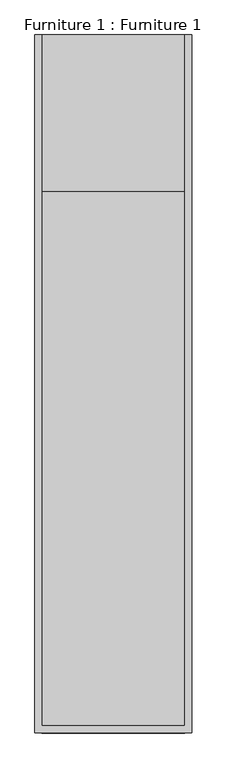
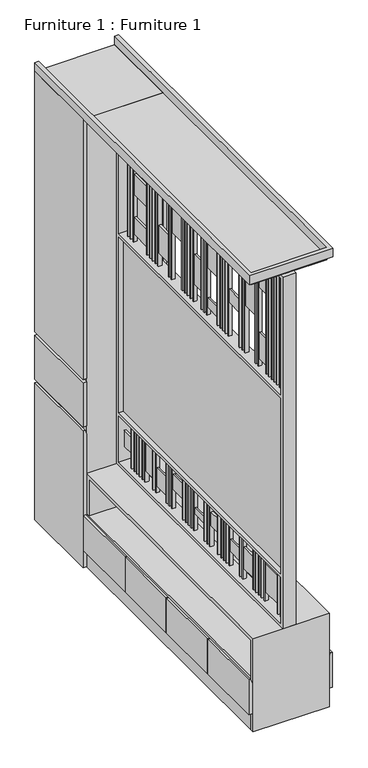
"""IFC4 building model written with IfcOpenShell, lengths in millimetres: furniture geometry, Furniture 1 : Furniture 1."""

import ifcopenshell
import ifcopenshell.guid

model = None  # the IFC model being written
_history = None  # IfcOwnerHistory: only IFC2X3 demands one
_inside = {}  # id of a spatial element -> (the spatial element, [elements in it])
_under = {}  # id of a project, library or spatial element -> (it, [spatial elements below it])
_declared = {}  # id of a project -> (the project, [libraries it declares])
_typed = {}  # id of a type object -> (the type object, [elements of that type])
_made_of = {}  # id of a material, layer set ... -> (it, [elements and type objects made of it])


def new_model(schema):
    """Start an empty IFC model of exactly this schema.

    Asked for "IFC4X3", IfcOpenShell would pick the latest addendum, in which some entities
    have other attributes; the version numbers below select the first issue.
    IFC2X3 requires an IfcOwnerHistory on every rooted entity: one is made here for all.
    """
    global model, _history
    if schema == "IFC4X3":
        model = ifcopenshell.file(schema_version=(4, 3, 0, 0))
    else:
        model = ifcopenshell.file(schema=schema)
    _inside.clear()
    _under.clear()
    _declared.clear()
    _typed.clear()
    _made_of.clear()
    _history = None
    if model.schema == "IFC2X3":
        org = make("IfcOrganization", Name="unknown")
        user = make(
            "IfcPersonAndOrganization",
            ThePerson=make("IfcPerson", FamilyName="unknown"),
            TheOrganization=org,
        )
        app = make(
            "IfcApplication",
            ApplicationDeveloper=org,
            Version="unknown",
            ApplicationFullName="unknown",
            ApplicationIdentifier="unknown",
        )
        _history = make(
            "IfcOwnerHistory",
            OwningUser=user,
            OwningApplication=app,
            ChangeAction="ADDED",
            CreationDate=0,
        )
    return model


def make(cls, **values):
    """One entity of the class cls with the attributes given. An attribute that is None is left unset."""
    return model.create_entity(
        cls, **{name: value for name, value in values.items() if value is not None}
    )


def rooted(cls, **values):
    """An entity with a GlobalId (a new one), such as an element, a storey or a relation."""
    return make(cls, GlobalId=ifcopenshell.guid.new(), OwnerHistory=_history, **values)


def si_unit(unit_type, name, prefix=None):
    """IfcSIUnit, for example si_unit("LENGTHUNIT", "METRE", prefix="MILLI")."""
    return make("IfcSIUnit", UnitType=unit_type, Prefix=prefix, Name=name)


def assignment(units):
    """IfcUnitAssignment: the units of a project."""
    return None if units is None else make("IfcUnitAssignment", Units=units)


def point(xyz):
    """IfcCartesianPoint."""
    return None if xyz is None else make("IfcCartesianPoint", Coordinates=xyz)


def direction(xyz):
    """IfcDirection."""
    return None if xyz is None else make("IfcDirection", DirectionRatios=xyz)


def frame(location, z_axis=None, x_axis=None):
    """IfcAxis2Placement3D, a coordinate frame: its origin and axes. An axis left out is left unset."""
    return make(
        "IfcAxis2Placement3D",
        Location=point(location),
        Axis=direction(z_axis),
        RefDirection=direction(x_axis),
    )


def origin():
    """The frame at (0, 0, 0) with its axes left unset."""
    return frame((0.0, 0.0, 0.0))


def origin_with_axes():
    """The frame at (0, 0, 0) with the z axis (0, 0, 1) and the x axis (1, 0, 0) written out."""
    return frame((0.0, 0.0, 0.0), z_axis=(0.0, 0.0, 1.0), x_axis=(1.0, 0.0, 0.0))


def place(relative_to, where):
    """IfcLocalPlacement: puts the frame where relative to a parent placement (None: the world)."""
    return make(
        "IfcLocalPlacement", PlacementRelTo=relative_to, RelativePlacement=where
    )


def context(
    kind, dimensions, precision=None, world=None, true_north=None, identifier=None
):
    """IfcGeometricRepresentationContext, for example the 3D "Model" context."""
    return make(
        "IfcGeometricRepresentationContext",
        ContextIdentifier=identifier,
        ContextType=kind,
        CoordinateSpaceDimension=dimensions,
        Precision=precision,
        WorldCoordinateSystem=world,
        TrueNorth=true_north,
    )


def project(units=None, contexts=None):
    """IfcProject with its units and contexts."""
    return rooted(
        "IfcProject",
        Name="project",
        RepresentationContexts=contexts,
        UnitsInContext=assignment(units),
    )


def spatial(cls, under=None, at=None, **own):
    """A site, building, storey or space (cls), placed at a placement, below another one or the project."""
    s = rooted(cls, ObjectPlacement=at, **own)
    if under is not None:
        _under.setdefault(under.id(), (under, []))[1].append(s)
    return s


def polyline(points):
    """IfcPolyline through the points."""
    return make("IfcPolyline", Points=[point(p) for p in points])


def outline(outer, holes=None, kind="AREA"):
    """IfcArbitraryClosedProfileDef: a profile drawn as a closed curve; with holes, ...WithVoids."""
    if holes is None:
        return make("IfcArbitraryClosedProfileDef", ProfileType=kind, OuterCurve=outer)
    return make(
        "IfcArbitraryProfileDefWithVoids",
        ProfileType=kind,
        OuterCurve=outer,
        InnerCurves=holes,
    )


def extrude(swept, where, along, depth):
    """IfcExtrudedAreaSolid: the profile swept, set in the frame where, extruded along a direction by depth."""
    return make(
        "IfcExtrudedAreaSolid",
        SweptArea=swept,
        Position=where,
        ExtrudedDirection=direction(along),
        Depth=depth,
    )


def shape(context_of_items, identifier, shape_type, items):
    """IfcShapeRepresentation: the items that make up one representation, for example the "Body"."""
    return make(
        "IfcShapeRepresentation",
        ContextOfItems=context_of_items,
        RepresentationIdentifier=identifier,
        RepresentationType=shape_type,
        Items=items,
    )


def source(mapping_origin, context_of_items, identifier, shape_type, items):
    """IfcRepresentationMap: a shape defined once, which mapped items show again and again."""
    return make(
        "IfcRepresentationMap",
        MappingOrigin=mapping_origin,
        MappedRepresentation=shape(context_of_items, identifier, shape_type, items),
    )


def transform(
    local_origin,
    x_axis=None,
    y_axis=None,
    z_axis=None,
    scale=None,
    scale2=None,
    scale3=None,
    uniform=True,
):
    """IfcCartesianTransformationOperator3D, or its non-uniform kind. x_axis, y_axis, z_axis: its Axis1, 2, 3."""
    if uniform:
        return make(
            "IfcCartesianTransformationOperator3D",
            Axis1=direction(x_axis),
            Axis2=direction(y_axis),
            LocalOrigin=point(local_origin),
            Scale=scale,
            Axis3=direction(z_axis),
        )
    return make(
        "IfcCartesianTransformationOperator3DnonUniform",
        Axis1=direction(x_axis),
        Axis2=direction(y_axis),
        LocalOrigin=point(local_origin),
        Scale=scale,
        Axis3=direction(z_axis),
        Scale2=scale2,
        Scale3=scale3,
    )


def mapped(mapping_source, mapping_target):
    """IfcMappedItem: shows the shape of a source again, moved by a transform."""
    return make(
        "IfcMappedItem", MappingSource=mapping_source, MappingTarget=mapping_target
    )


def made_of(thing, what):
    """Note that an element or type object is made of a material, layer set ...; save() writes the relation."""
    if what is not None:
        _made_of.setdefault(what.id(), (what, []))[1].append(thing)
    return thing


def element(
    cls,
    number,
    at=None,
    inside=None,
    cuts=None,
    type_object=None,
    material=None,
    context=None,
    identifier="Body",
    shape_type=None,
    held_by="IfcProductDefinitionShape",
    body=None,
    shapes=None,
    **own,
):
    """One element of the class cls, such as IfcWall. Its Tag is "e" and its number.

    at: its placement. inside: the storey or other place that contains it. cuts: it is an
    opening in that element (IfcRelVoidsElement). A single representation is given by context,
    identifier, shape_type and body (its items); several are given by shapes. held_by: the class
    of the entity that holds the representations. save() writes the other relations.
    """
    e = rooted(cls, Tag="e%d" % number, ObjectPlacement=at, **own)
    if body is not None:
        shapes = [shape(context, identifier, shape_type, body)]
    if shapes is not None:
        e.Representation = make(held_by, Representations=shapes)
    if inside is not None:
        _inside.setdefault(inside.id(), (inside, []))[1].append(e)
    if cuts is not None:
        rooted(
            "IfcRelVoidsElement", RelatingBuildingElement=cuts, RelatedOpeningElement=e
        )
    if type_object is not None:
        _typed.setdefault(type_object.id(), (type_object, []))[1].append(e)
    return made_of(e, material)


def aggregate(whole, parts):
    """IfcRelAggregates: a whole, such as a stair, and the parts it consists of."""
    return rooted("IfcRelAggregates", RelatingObject=whole, RelatedObjects=parts)


def save(model, path):
    """Write the relations noted so far, then the file.

    IfcRelAggregates (storeys below a building ...), IfcRelContainedInSpatialStructure (elements
    in a storey), IfcRelDefinesByType, IfcRelAssociatesMaterial and IfcRelDeclares: one each for
    every whole, place, type object, material and project.
    """
    for whole, parts in _under.values():
        aggregate(whole, parts)
    for where, things in _inside.values():
        rooted(
            "IfcRelContainedInSpatialStructure",
            RelatedElements=things,
            RelatingStructure=where,
        )
    for kind, things in _typed.values():
        rooted("IfcRelDefinesByType", RelatedObjects=things, RelatingType=kind)
    for what, things in _made_of.values():
        rooted("IfcRelAssociatesMaterial", RelatedObjects=things, RelatingMaterial=what)
    for by, libraries in _declared.values():
        rooted("IfcRelDeclares", RelatingContext=by, RelatedDefinitions=libraries)
    model.write(path)


def furniture_1_furniture_1_9f08c0cb(model_context):
    return source(origin(), model_context, "Body", "SweptSolid", [
        extrude(outline(polyline([(-1392.1161882, 118.9239272), (-1392.1161882, 568.9239272), (-1372.1161882, 568.9239272), (-1372.1161882, 118.9239272), (-1392.1161882, 118.9239272)])), frame((0.0, 0.0, 800.0), z_axis=(0.0, 0.0, 1.0), x_axis=(1.0, 0.0, 0.0)), (0.0, 0.0, 1.0), 250.0),
        extrude(outline(polyline([(-1392.1161882, 118.9239272), (-1392.1161882, 568.9239272), (-1372.1161882, 568.9239272), (-1372.1161882, 118.9239272), (-1392.1161882, 118.9239272)])), frame((0.0, 0.0, 1070.0), z_axis=(0.0, 0.0, 1.0), x_axis=(1.0, 0.0, 0.0)), (0.0, 0.0, 1.0), 1480.0),
        extrude(outline(polyline([(752.5252258, -1372.1161882), (780.0, -1382.1161882), (780.0, -1392.1161882), (0.0, -1392.1161882), (0.0, -1372.1161882), (752.5252258, -1372.1161882)])), frame((0.0, 118.9239272, 0.0), z_axis=(0.0, 1.0, 0.0), x_axis=(0.0, 0.0, 1.0)), (0.0, 0.0, 1.0), 450.0),
        extrude(outline(polyline([(-942.1161882, 568.9239272), (-942.1161882, 118.9239272), (-962.1161882, 118.9239272), (-962.1161882, 568.9239272), (-942.1161882, 568.9239272)])), frame((0.0, 0.0, 800.0), z_axis=(0.0, 0.0, 1.0), x_axis=(1.0, 0.0, 0.0)), (0.0, 0.0, 1.0), 250.0),
        extrude(outline(polyline([(-942.1161882, 568.9239272), (-942.1161882, 118.9239272), (-962.1161882, 118.9239272), (-962.1161882, 568.9239272), (-942.1161882, 568.9239272)])), frame((0.0, 0.0, 1070.0), z_axis=(0.0, 0.0, 1.0), x_axis=(1.0, 0.0, 0.0)), (0.0, 0.0, 1.0), 1480.0),
        extrude(outline(polyline([(272.5252258, -1372.1161882), (300.0, -1382.1161882), (300.0, -1392.1161882), (100.0, -1392.1161882), (100.0, -1372.1161882), (272.5252258, -1372.1161882)])), frame((0.0, -271.0760728, 0.0), z_axis=(0.0, 1.0, 0.0), x_axis=(0.0, 0.0, 1.0)), (0.0, 0.0, 1.0), 385.0),
        extrude(outline(polyline([(272.5252258, -1372.1161882), (300.0, -1382.1161882), (300.0, -1392.1161882), (100.0, -1392.1161882), (100.0, -1372.1161882), (272.5252258, -1372.1161882)])), frame((0.0, -656.0760728, 0.0), z_axis=(0.0, 1.0, 0.0), x_axis=(0.0, 0.0, 1.0)), (0.0, 0.0, 1.0), 380.0),
        extrude(outline(polyline([(272.5252258, -1372.1161882), (300.0, -1382.1161882), (300.0, -1392.1161882), (100.0, -1392.1161882), (100.0, -1372.1161882), (272.5252258, -1372.1161882)])), frame((0.0, -1041.0760728, 0.0), z_axis=(0.0, 1.0, 0.0), x_axis=(0.0, 0.0, 1.0)), (0.0, 0.0, 1.0), 380.0),
        extrude(outline(polyline([(272.5252258, -1372.1161882), (300.0, -1382.1161882), (300.0, -1392.1161882), (100.0, -1392.1161882), (100.0, -1372.1161882), (272.5252258, -1372.1161882)])), frame((0.0, -1426.0760728, 0.0), z_axis=(0.0, 1.0, 0.0), x_axis=(0.0, 0.0, 1.0)), (0.0, 0.0, 1.0), 380.0),
        extrude(outline(polyline([(752.5252258, -962.1161882), (0.0, -962.1161882), (0.0, -942.1161882), (780.0, -942.1161882), (780.0, -952.1161882), (752.5252258, -962.1161882)])), frame((0.0, 118.9239272, 0.0), z_axis=(0.0, 1.0, 0.0), x_axis=(0.0, 0.0, 1.0)), (0.0, 0.0, 1.0), 450.0),
        extrude(outline(polyline([(272.5252258, -962.1161882), (100.0, -962.1161882), (100.0, -942.1161882), (300.0, -942.1161882), (300.0, -952.1161882), (272.5252258, -962.1161882)])), frame((0.0, -271.0760728, 0.0), z_axis=(0.0, 1.0, 0.0), x_axis=(0.0, 0.0, 1.0)), (0.0, 0.0, 1.0), 385.0),
        extrude(outline(polyline([(272.5252258, -962.1161882), (100.0, -962.1161882), (100.0, -942.1161882), (300.0, -942.1161882), (300.0, -952.1161882), (272.5252258, -962.1161882)])), frame((0.0, -656.0760728, 0.0), z_axis=(0.0, 1.0, 0.0), x_axis=(0.0, 0.0, 1.0)), (0.0, 0.0, 1.0), 380.0),
        extrude(outline(polyline([(272.5252258, -962.1161882), (100.0, -962.1161882), (100.0, -942.1161882), (300.0, -942.1161882), (300.0, -952.1161882), (272.5252258, -962.1161882)])), frame((0.0, -1041.0760728, 0.0), z_axis=(0.0, 1.0, 0.0), x_axis=(0.0, 0.0, 1.0)), (0.0, 0.0, 1.0), 380.0),
        extrude(outline(polyline([(272.5252258, -962.1161882), (100.0, -962.1161882), (100.0, -942.1161882), (300.0, -942.1161882), (300.0, -952.1161882), (272.5252258, -962.1161882)])), frame((0.0, -1426.0760728, 0.0), z_axis=(0.0, 1.0, 0.0), x_axis=(0.0, 0.0, 1.0)), (0.0, 0.0, 1.0), 380.0),
        extrude(outline(polyline([(-1167.1161882, 98.9239272), (-1167.1161882, -1411.0760728), (-1187.1161882, -1411.0760728), (-1187.1161882, 98.9239272), (-1167.1161882, 98.9239272)])), frame((0.0, 0.0, 830.0), z_axis=(0.0, 0.0, 1.0), x_axis=(1.0, 0.0, 0.0)), (0.0, 0.0, 1.0), 1000.0),
        extrude(outline(polyline([(-1172.1161882, -1161.0760728), (-1172.1161882, -1231.0760728), (-1182.1161882, -1231.0760728), (-1182.1161882, -1161.0760728), (-1172.1161882, -1161.0760728)])), frame((0.0, 0.0, 1892.03626), z_axis=(0.0, 0.0, 1.0), x_axis=(1.0, 0.0, 0.0)), (0.0, 0.0, 1.0), 150.0731676),
        extrude(outline(polyline([(-1172.1161882, -1161.0760728), (-1172.1161882, -1231.0760728), (-1182.1161882, -1231.0760728), (-1182.1161882, -1161.0760728), (-1172.1161882, -1161.0760728)])), frame((0.0, 0.0, 2298.9247777), z_axis=(0.0, 0.0, 1.0), x_axis=(1.0, 0.0, 0.0)), (0.0, 0.0, 1.0), 85.6051167),
        extrude(outline(polyline([(-1172.1161882, -1036.0760728), (-1172.1161882, -1131.0760728), (-1182.1161882, -1131.0760728), (-1182.1161882, -1036.0760728), (-1172.1161882, -1036.0760728)])), frame((0.0, 0.0, 2118.2028647), z_axis=(0.0, 0.0, 1.0), x_axis=(1.0, 0.0, 0.0)), (0.0, 0.0, 1.0), 169.0965269),
        extrude(outline(polyline([(-1172.1161882, -1036.0760728), (-1172.1161882, -1131.0760728), (-1182.1161882, -1131.0760728), (-1182.1161882, -1036.0760728), (-1172.1161882, -1036.0760728)])), frame((0.0, 0.0, 2396.4138599), z_axis=(0.0, 0.0, 1.0), x_axis=(1.0, 0.0, 0.0)), (0.0, 0.0, 1.0), 82.2069478),
        extrude(outline(polyline([(-1172.1161882, -876.0760728), (-1172.1161882, -981.0760728), (-1182.1161882, -981.0760728), (-1182.1161882, -876.0760728), (-1172.1161882, -876.0760728)])), frame((0.0, 0.0, 2042.1094276), z_axis=(0.0, 0.0, 1.0), x_axis=(1.0, 0.0, 0.0)), (0.0, 0.0, 1.0), 76.0934371),
        extrude(outline(polyline([(-1172.1161882, -881.0760728), (-1172.1161882, -981.0760728), (-1182.1161882, -981.0760728), (-1182.1161882, -881.0760728), (-1172.1161882, -881.0760728)])), frame((0.0, 0.0, 2287.2993915), z_axis=(0.0, 0.0, 1.0), x_axis=(1.0, 0.0, 0.0)), (0.0, 0.0, 1.0), 132.1066616),
        extrude(outline(polyline([(-1172.1161882, -681.0760728), (-1172.1161882, -776.0760728), (-1182.1161882, -776.0760728), (-1182.1161882, -681.0760728), (-1172.1161882, -681.0760728)])), frame((0.0, 0.0, 2118.2028647), z_axis=(0.0, 0.0, 1.0), x_axis=(1.0, 0.0, 0.0)), (0.0, 0.0, 1.0), 180.7219131),
        extrude(outline(polyline([(-1172.1161882, -681.0760728), (-1172.1161882, -776.0760728), (-1182.1161882, -776.0760728), (-1182.1161882, -681.0760728), (-1172.1161882, -681.0760728)])), frame((0.0, 0.0, 1892.03626), z_axis=(0.0, 0.0, 1.0), x_axis=(1.0, 0.0, 0.0)), (0.0, 0.0, 1.0), 55.6697472),
        extrude(outline(polyline([(-1172.1161882, -556.0760728), (-1172.1161882, -626.0760728), (-1182.1161882, -626.0760728), (-1182.1161882, -556.0760728), (-1172.1161882, -556.0760728)])), frame((0.0, 0.0, 1947.7060072), z_axis=(0.0, 0.0, 1.0), x_axis=(1.0, 0.0, 0.0)), (0.0, 0.0, 1.0), 170.4968575),
        extrude(outline(polyline([(-1172.1161882, -556.0760728), (-1172.1161882, -626.0760728), (-1182.1161882, -626.0760728), (-1182.1161882, -556.0760728), (-1172.1161882, -556.0760728)])), frame((0.0, 0.0, 2298.9247777), z_axis=(0.0, 0.0, 1.0), x_axis=(1.0, 0.0, 0.0)), (0.0, 0.0, 1.0), 120.4812754),
        extrude(outline(polyline([(-1172.1161882, -351.0760728), (-1172.1161882, -446.0760728), (-1182.1161882, -446.0760728), (-1182.1161882, -351.0760728), (-1172.1161882, -351.0760728)])), frame((0.0, 0.0, 2118.2028647), z_axis=(0.0, 0.0, 1.0), x_axis=(1.0, 0.0, 0.0)), (0.0, 0.0, 1.0), 169.0965269),
        extrude(outline(polyline([(-1172.1161882, -226.0760728), (-1172.1161882, -321.0760728), (-1182.1161882, -321.0760728), (-1182.1161882, -226.0760728), (-1172.1161882, -226.0760728)])), frame((0.0, 0.0, 1925.3429915), z_axis=(0.0, 0.0, 1.0), x_axis=(1.0, 0.0, 0.0)), (0.0, 0.0, 1.0), 159.3364867),
        extrude(outline(polyline([(-1172.1161882, -226.0760728), (-1172.1161882, -321.0760728), (-1182.1161882, -321.0760728), (-1182.1161882, -226.0760728), (-1172.1161882, -226.0760728)])), frame((0.0, 0.0, 2298.9247777), z_axis=(0.0, 0.0, 1.0), x_axis=(1.0, 0.0, 0.0)), (0.0, 0.0, 1.0), 139.3698859),
        extrude(outline(polyline([(-1172.1161882, 3.9239272), (-1172.1161882, -116.0760728), (-1182.1161882, -116.0760728), (-1182.1161882, 3.9239272), (-1172.1161882, 3.9239272)])), frame((0.0, 0.0, 1892.03626), z_axis=(0.0, 0.0, 1.0), x_axis=(1.0, 0.0, 0.0)), (0.0, 0.0, 1.0), 98.9980901),
        extrude(outline(polyline([(-1172.1161882, 3.9239272), (-1172.1161882, -116.0760728), (-1182.1161882, -116.0760728), (-1182.1161882, 3.9239272), (-1172.1161882, 3.9239272)])), frame((0.0, 0.0, 2118.2028647), z_axis=(0.0, 0.0, 1.0), x_axis=(1.0, 0.0, 0.0)), (0.0, 0.0, 1.0), 117.4269694),
        extrude(outline(polyline([(-1172.1161882, 3.9239272), (-1172.1161882, -116.0760728), (-1182.1161882, -116.0760728), (-1182.1161882, 3.9239272), (-1172.1161882, 3.9239272)])), frame((0.0, 0.0, 2384.5298945), z_axis=(0.0, 0.0, 1.0), x_axis=(1.0, 0.0, 0.0)), (0.0, 0.0, 1.0), 94.2977351),
        extrude(outline(polyline([(-1172.1161882, 98.9239272), (-1172.1161882, 25.063286), (-1182.1161882, 25.063286), (-1182.1161882, 98.9239272), (-1172.1161882, 98.9239272)])), frame((0.0, 0.0, 631.2583924), z_axis=(0.0, 0.0, 1.0), x_axis=(1.0, 0.0, 0.0)), (0.0, 0.0, 1.0), 90.3020205),
        extrude(outline(polyline([(-1172.1161882, -104.936714), (-1172.1161882, -174.936714), (-1182.1161882, -174.936714), (-1182.1161882, -104.936714), (-1172.1161882, -104.936714)])), frame((0.0, 0.0, 611.2800693), z_axis=(0.0, 0.0, 1.0), x_axis=(1.0, 0.0, 0.0)), (0.0, 0.0, 1.0), 167.0187813),
        extrude(outline(polyline([(-1172.1161882, -204.936714), (-1172.1161882, -299.936714), (-1182.1161882, -299.936714), (-1182.1161882, -204.936714), (-1172.1161882, -204.936714)])), frame((0.0, 0.0, 586.5069487), z_axis=(0.0, 0.0, 1.0), x_axis=(1.0, 0.0, 0.0)), (0.0, 0.0, 1.0), 105.4855461),
        extrude(outline(polyline([(-1172.1161882, -354.936714), (-1172.1161882, -454.936714), (-1182.1161882, -454.936714), (-1182.1161882, -354.936714), (-1172.1161882, -354.936714)])), frame((0.0, 0.0, 660.8263107), z_axis=(0.0, 0.0, 1.0), x_axis=(1.0, 0.0, 0.0)), (0.0, 0.0, 1.0), 85.5072229),
        extrude(outline(polyline([(-1172.1161882, -559.936714), (-1172.1161882, -654.936714), (-1182.1161882, -654.936714), (-1182.1161882, -559.936714), (-1172.1161882, -559.936714)])), frame((0.0, 0.0, 644.8436522), z_axis=(0.0, 0.0, 1.0), x_axis=(1.0, 0.0, 0.0)), (0.0, 0.0, 1.0), 35.1563478),
        extrude(outline(polyline([(-1172.1161882, -709.936714), (-1172.1161882, -779.936714), (-1182.1161882, -779.936714), (-1182.1161882, -709.936714), (-1172.1161882, -709.936714)])), frame((0.0, 0.0, 668.018507), z_axis=(0.0, 0.0, 1.0), x_axis=(1.0, 0.0, 0.0)), (0.0, 0.0, 1.0), 78.3150266),
        extrude(outline(polyline([(-1172.1161882, -889.936714), (-1172.1161882, -984.936714), (-1182.1161882, -984.936714), (-1182.1161882, -889.936714), (-1172.1161882, -889.936714)])), frame((0.0, 0.0, 631.2583924), z_axis=(0.0, 0.0, 1.0), x_axis=(1.0, 0.0, 0.0)), (0.0, 0.0, 1.0), 68.7254315),
        extrude(outline(polyline([(-1172.1161882, -1014.936714), (-1172.1161882, -1109.936714), (-1182.1161882, -1109.936714), (-1182.1161882, -1014.936714), (-1172.1161882, -1014.936714)])), frame((0.0, 0.0, 611.2800693), z_axis=(0.0, 0.0, 1.0), x_axis=(1.0, 0.0, 0.0)), (0.0, 0.0, 1.0), 121.4682046),
        extrude(outline(polyline([(-1172.1161882, -1219.936714), (-1172.1161882, -1339.936714), (-1182.1161882, -1339.936714), (-1182.1161882, -1219.936714), (-1172.1161882, -1219.936714)])), frame((0.0, 0.0, 603.4025206), z_axis=(0.0, 0.0, 1.0), x_axis=(1.0, 0.0, 0.0)), (0.0, 0.0, 1.0), 160.1287146),
        extrude(outline(polyline([(-1167.1161882, 25.063286), (-1167.1161882, 20.063286), (-1187.1161882, 20.063286), (-1187.1161882, 25.063286), (-1167.1161882, 25.063286)])), frame((0.0, 0.0, 550.0), z_axis=(0.0, 0.0, 1.0), x_axis=(1.0, 0.0, 0.0)), (0.0, 0.0, 1.0), 260.0),
        extrude(outline(polyline([(-1167.1161882, 0.063286), (-1167.1161882, -4.936714), (-1187.1161882, -4.936714), (-1187.1161882, 0.063286), (-1167.1161882, 0.063286)])), frame((0.0, 0.0, 550.0), z_axis=(0.0, 0.0, 1.0), x_axis=(1.0, 0.0, 0.0)), (0.0, 0.0, 1.0), 260.0),
        extrude(outline(polyline([(-1167.1161882, -24.936714), (-1167.1161882, -29.936714), (-1187.1161882, -29.936714), (-1187.1161882, -24.936714), (-1167.1161882, -24.936714)])), frame((0.0, 0.0, 550.0), z_axis=(0.0, 0.0, 1.0), x_axis=(1.0, 0.0, 0.0)), (0.0, 0.0, 1.0), 260.0),
        extrude(outline(polyline([(-1167.1161882, -49.936714), (-1167.1161882, -54.936714), (-1187.1161882, -54.936714), (-1187.1161882, -49.936714), (-1167.1161882, -49.936714)])), frame((0.0, 0.0, 550.0), z_axis=(0.0, 0.0, 1.0), x_axis=(1.0, 0.0, 0.0)), (0.0, 0.0, 1.0), 260.0),
        extrude(outline(polyline([(-1167.1161882, -74.936714), (-1167.1161882, -79.936714), (-1187.1161882, -79.936714), (-1187.1161882, -74.936714), (-1167.1161882, -74.936714)])), frame((0.0, 0.0, 550.0), z_axis=(0.0, 0.0, 1.0), x_axis=(1.0, 0.0, 0.0)), (0.0, 0.0, 1.0), 260.0),
        extrude(outline(polyline([(-1167.1161882, -99.936714), (-1167.1161882, -104.936714), (-1187.1161882, -104.936714), (-1187.1161882, -99.936714), (-1167.1161882, -99.936714)])), frame((0.0, 0.0, 550.0), z_axis=(0.0, 0.0, 1.0), x_axis=(1.0, 0.0, 0.0)), (0.0, 0.0, 1.0), 260.0),
        extrude(outline(polyline([(-1167.1161882, -174.936714), (-1167.1161882, -179.936714), (-1187.1161882, -179.936714), (-1187.1161882, -174.936714), (-1167.1161882, -174.936714)])), frame((0.0, 0.0, 550.0), z_axis=(0.0, 0.0, 1.0), x_axis=(1.0, 0.0, 0.0)), (0.0, 0.0, 1.0), 260.0),
        extrude(outline(polyline([(-1167.1161882, -199.936714), (-1167.1161882, -204.936714), (-1187.1161882, -204.936714), (-1187.1161882, -199.936714), (-1167.1161882, -199.936714)])), frame((0.0, 0.0, 550.0), z_axis=(0.0, 0.0, 1.0), x_axis=(1.0, 0.0, 0.0)), (0.0, 0.0, 1.0), 260.0),
        extrude(outline(polyline([(-1167.1161882, -299.936714), (-1167.1161882, -304.936714), (-1187.1161882, -304.936714), (-1187.1161882, -299.936714), (-1167.1161882, -299.936714)])), frame((0.0, 0.0, 550.0), z_axis=(0.0, 0.0, 1.0), x_axis=(1.0, 0.0, 0.0)), (0.0, 0.0, 1.0), 260.0),
        extrude(outline(polyline([(-1167.1161882, -324.936714), (-1167.1161882, -329.936714), (-1187.1161882, -329.936714), (-1187.1161882, -324.936714), (-1167.1161882, -324.936714)])), frame((0.0, 0.0, 550.0), z_axis=(0.0, 0.0, 1.0), x_axis=(1.0, 0.0, 0.0)), (0.0, 0.0, 1.0), 260.0),
        extrude(outline(polyline([(-1167.1161882, -349.936714), (-1167.1161882, -354.936714), (-1187.1161882, -354.936714), (-1187.1161882, -349.936714), (-1167.1161882, -349.936714)])), frame((0.0, 0.0, 550.0), z_axis=(0.0, 0.0, 1.0), x_axis=(1.0, 0.0, 0.0)), (0.0, 0.0, 1.0), 260.0),
        extrude(outline(polyline([(-1167.1161882, -454.936714), (-1167.1161882, -459.936714), (-1187.1161882, -459.936714), (-1187.1161882, -454.936714), (-1167.1161882, -454.936714)])), frame((0.0, 0.0, 550.0), z_axis=(0.0, 0.0, 1.0), x_axis=(1.0, 0.0, 0.0)), (0.0, 0.0, 1.0), 260.0),
        extrude(outline(polyline([(-1167.1161882, -479.936714), (-1167.1161882, -484.936714), (-1187.1161882, -484.936714), (-1187.1161882, -479.936714), (-1167.1161882, -479.936714)])), frame((0.0, 0.0, 550.0), z_axis=(0.0, 0.0, 1.0), x_axis=(1.0, 0.0, 0.0)), (0.0, 0.0, 1.0), 260.0),
        extrude(outline(polyline([(-1167.1161882, -504.936714), (-1167.1161882, -509.936714), (-1187.1161882, -509.936714), (-1187.1161882, -504.936714), (-1167.1161882, -504.936714)])), frame((0.0, 0.0, 550.0), z_axis=(0.0, 0.0, 1.0), x_axis=(1.0, 0.0, 0.0)), (0.0, 0.0, 1.0), 260.0),
        extrude(outline(polyline([(-1167.1161882, -529.936714), (-1167.1161882, -534.936714), (-1187.1161882, -534.936714), (-1187.1161882, -529.936714), (-1167.1161882, -529.936714)])), frame((0.0, 0.0, 550.0), z_axis=(0.0, 0.0, 1.0), x_axis=(1.0, 0.0, 0.0)), (0.0, 0.0, 1.0), 260.0),
        extrude(outline(polyline([(-1167.1161882, -554.936714), (-1167.1161882, -559.936714), (-1187.1161882, -559.936714), (-1187.1161882, -554.936714), (-1167.1161882, -554.936714)])), frame((0.0, 0.0, 550.0), z_axis=(0.0, 0.0, 1.0), x_axis=(1.0, 0.0, 0.0)), (0.0, 0.0, 1.0), 260.0),
        extrude(outline(polyline([(-1167.1161882, -654.936714), (-1167.1161882, -659.936714), (-1187.1161882, -659.936714), (-1187.1161882, -654.936714), (-1167.1161882, -654.936714)])), frame((0.0, 0.0, 550.0), z_axis=(0.0, 0.0, 1.0), x_axis=(1.0, 0.0, 0.0)), (0.0, 0.0, 1.0), 260.0),
        extrude(outline(polyline([(-1167.1161882, -679.936714), (-1167.1161882, -684.936714), (-1187.1161882, -684.936714), (-1187.1161882, -679.936714), (-1167.1161882, -679.936714)])), frame((0.0, 0.0, 550.0), z_axis=(0.0, 0.0, 1.0), x_axis=(1.0, 0.0, 0.0)), (0.0, 0.0, 1.0), 260.0),
        extrude(outline(polyline([(-1167.1161882, -704.936714), (-1167.1161882, -709.936714), (-1187.1161882, -709.936714), (-1187.1161882, -704.936714), (-1167.1161882, -704.936714)])), frame((0.0, 0.0, 550.0), z_axis=(0.0, 0.0, 1.0), x_axis=(1.0, 0.0, 0.0)), (0.0, 0.0, 1.0), 260.0),
        extrude(outline(polyline([(-1167.1161882, -779.936714), (-1167.1161882, -784.936714), (-1187.1161882, -784.936714), (-1187.1161882, -779.936714), (-1167.1161882, -779.936714)])), frame((0.0, 0.0, 550.0), z_axis=(0.0, 0.0, 1.0), x_axis=(1.0, 0.0, 0.0)), (0.0, 0.0, 1.0), 260.0),
        extrude(outline(polyline([(-1167.1161882, -809.936714), (-1167.1161882, -814.936714), (-1187.1161882, -814.936714), (-1187.1161882, -809.936714), (-1167.1161882, -809.936714)])), frame((0.0, 0.0, 550.0), z_axis=(0.0, 0.0, 1.0), x_axis=(1.0, 0.0, 0.0)), (0.0, 0.0, 1.0), 260.0),
        extrude(outline(polyline([(-1167.1161882, -834.936714), (-1167.1161882, -839.936714), (-1187.1161882, -839.936714), (-1187.1161882, -834.936714), (-1167.1161882, -834.936714)])), frame((0.0, 0.0, 550.0), z_axis=(0.0, 0.0, 1.0), x_axis=(1.0, 0.0, 0.0)), (0.0, 0.0, 1.0), 260.0),
        extrude(outline(polyline([(-1167.1161882, -859.936714), (-1167.1161882, -864.936714), (-1187.1161882, -864.936714), (-1187.1161882, -859.936714), (-1167.1161882, -859.936714)])), frame((0.0, 0.0, 550.0), z_axis=(0.0, 0.0, 1.0), x_axis=(1.0, 0.0, 0.0)), (0.0, 0.0, 1.0), 260.0),
        extrude(outline(polyline([(-1167.1161882, -884.936714), (-1167.1161882, -889.936714), (-1187.1161882, -889.936714), (-1187.1161882, -884.936714), (-1167.1161882, -884.936714)])), frame((0.0, 0.0, 550.0), z_axis=(0.0, 0.0, 1.0), x_axis=(1.0, 0.0, 0.0)), (0.0, 0.0, 1.0), 260.0),
        extrude(outline(polyline([(-1167.1161882, -984.936714), (-1167.1161882, -989.936714), (-1187.1161882, -989.936714), (-1187.1161882, -984.936714), (-1167.1161882, -984.936714)])), frame((0.0, 0.0, 550.0), z_axis=(0.0, 0.0, 1.0), x_axis=(1.0, 0.0, 0.0)), (0.0, 0.0, 1.0), 260.0),
        extrude(outline(polyline([(-1167.1161882, -1009.936714), (-1167.1161882, -1014.936714), (-1187.1161882, -1014.936714), (-1187.1161882, -1009.936714), (-1167.1161882, -1009.936714)])), frame((0.0, 0.0, 550.0), z_axis=(0.0, 0.0, 1.0), x_axis=(1.0, 0.0, 0.0)), (0.0, 0.0, 1.0), 260.0),
        extrude(outline(polyline([(-1167.1161882, -1109.936714), (-1167.1161882, -1114.936714), (-1187.1161882, -1114.936714), (-1187.1161882, -1109.936714), (-1167.1161882, -1109.936714)])), frame((0.0, 0.0, 550.0), z_axis=(0.0, 0.0, 1.0), x_axis=(1.0, 0.0, 0.0)), (0.0, 0.0, 1.0), 260.0),
        extrude(outline(polyline([(-1167.1161882, -1134.936714), (-1167.1161882, -1139.936714), (-1187.1161882, -1139.936714), (-1187.1161882, -1134.936714), (-1167.1161882, -1134.936714)])), frame((0.0, 0.0, 550.0), z_axis=(0.0, 0.0, 1.0), x_axis=(1.0, 0.0, 0.0)), (0.0, 0.0, 1.0), 260.0),
        extrude(outline(polyline([(-1167.1161882, -1159.936714), (-1167.1161882, -1164.936714), (-1187.1161882, -1164.936714), (-1187.1161882, -1159.936714), (-1167.1161882, -1159.936714)])), frame((0.0, 0.0, 550.0), z_axis=(0.0, 0.0, 1.0), x_axis=(1.0, 0.0, 0.0)), (0.0, 0.0, 1.0), 260.0),
        extrude(outline(polyline([(-1167.1161882, -1184.936714), (-1167.1161882, -1189.936714), (-1187.1161882, -1189.936714), (-1187.1161882, -1184.936714), (-1167.1161882, -1184.936714)])), frame((0.0, 0.0, 550.0), z_axis=(0.0, 0.0, 1.0), x_axis=(1.0, 0.0, 0.0)), (0.0, 0.0, 1.0), 260.0),
        extrude(outline(polyline([(-1167.1161882, -1214.936714), (-1167.1161882, -1219.936714), (-1187.1161882, -1219.936714), (-1187.1161882, -1214.936714), (-1167.1161882, -1214.936714)])), frame((0.0, 0.0, 550.0), z_axis=(0.0, 0.0, 1.0), x_axis=(1.0, 0.0, 0.0)), (0.0, 0.0, 1.0), 260.0),
        extrude(outline(polyline([(-1167.1161882, -1339.936714), (-1167.1161882, -1344.936714), (-1187.1161882, -1344.936714), (-1187.1161882, -1339.936714), (-1167.1161882, -1339.936714)])), frame((0.0, 0.0, 550.0), z_axis=(0.0, 0.0, 1.0), x_axis=(1.0, 0.0, 0.0)), (0.0, 0.0, 1.0), 260.0),
        extrude(outline(polyline([(-1167.1161882, -1364.936714), (-1167.1161882, -1369.936714), (-1187.1161882, -1369.936714), (-1187.1161882, -1364.936714), (-1167.1161882, -1364.936714)])), frame((0.0, 0.0, 550.0), z_axis=(0.0, 0.0, 1.0), x_axis=(1.0, 0.0, 0.0)), (0.0, 0.0, 1.0), 260.0),
        extrude(outline(polyline([(-1167.1161882, -1389.936714), (-1167.1161882, -1394.936714), (-1187.1161882, -1394.936714), (-1187.1161882, -1389.936714), (-1167.1161882, -1389.936714)])), frame((0.0, 0.0, 550.0), z_axis=(0.0, 0.0, 1.0), x_axis=(1.0, 0.0, 0.0)), (0.0, 0.0, 1.0), 260.0),
        extrude(outline(polyline([(-1167.1161882, -1356.0760728), (-1167.1161882, -1361.0760728), (-1187.1161882, -1361.0760728), (-1187.1161882, -1356.0760728), (-1167.1161882, -1356.0760728)])), frame((0.0, 0.0, 1850.0), z_axis=(0.0, 0.0, 1.0), x_axis=(1.0, 0.0, 0.0)), (0.0, 0.0, 1.0), 690.0),
        extrude(outline(polyline([(-1167.1161882, -1331.0760728), (-1167.1161882, -1336.0760728), (-1187.1161882, -1336.0760728), (-1187.1161882, -1331.0760728), (-1167.1161882, -1331.0760728)])), frame((0.0, 0.0, 1850.0), z_axis=(0.0, 0.0, 1.0), x_axis=(1.0, 0.0, 0.0)), (0.0, 0.0, 1.0), 690.0),
        extrude(outline(polyline([(-1167.1161882, -1306.0760728), (-1167.1161882, -1311.0760728), (-1187.1161882, -1311.0760728), (-1187.1161882, -1306.0760728), (-1167.1161882, -1306.0760728)])), frame((0.0, 0.0, 1850.0), z_axis=(0.0, 0.0, 1.0), x_axis=(1.0, 0.0, 0.0)), (0.0, 0.0, 1.0), 690.0),
        extrude(outline(polyline([(-1167.1161882, -1281.0760728), (-1167.1161882, -1286.0760728), (-1187.1161882, -1286.0760728), (-1187.1161882, -1281.0760728), (-1167.1161882, -1281.0760728)])), frame((0.0, 0.0, 1850.0), z_axis=(0.0, 0.0, 1.0), x_axis=(1.0, 0.0, 0.0)), (0.0, 0.0, 1.0), 690.0),
        extrude(outline(polyline([(-1167.1161882, -1256.0760728), (-1167.1161882, -1261.0760728), (-1187.1161882, -1261.0760728), (-1187.1161882, -1256.0760728), (-1167.1161882, -1256.0760728)])), frame((0.0, 0.0, 1850.0), z_axis=(0.0, 0.0, 1.0), x_axis=(1.0, 0.0, 0.0)), (0.0, 0.0, 1.0), 690.0),
        extrude(outline(polyline([(-1167.1161882, -1231.0760728), (-1167.1161882, -1236.0760728), (-1187.1161882, -1236.0760728), (-1187.1161882, -1231.0760728), (-1167.1161882, -1231.0760728)])), frame((0.0, 0.0, 1850.0), z_axis=(0.0, 0.0, 1.0), x_axis=(1.0, 0.0, 0.0)), (0.0, 0.0, 1.0), 690.0),
        extrude(outline(polyline([(-1167.1161882, -1156.0760728), (-1167.1161882, -1161.0760728), (-1187.1161882, -1161.0760728), (-1187.1161882, -1156.0760728), (-1167.1161882, -1156.0760728)])), frame((0.0, 0.0, 1850.0), z_axis=(0.0, 0.0, 1.0), x_axis=(1.0, 0.0, 0.0)), (0.0, 0.0, 1.0), 690.0),
        extrude(outline(polyline([(-1167.1161882, -1131.0760728), (-1167.1161882, -1136.0760728), (-1187.1161882, -1136.0760728), (-1187.1161882, -1131.0760728), (-1167.1161882, -1131.0760728)])), frame((0.0, 0.0, 1850.0), z_axis=(0.0, 0.0, 1.0), x_axis=(1.0, 0.0, 0.0)), (0.0, 0.0, 1.0), 690.0),
        extrude(outline(polyline([(-1167.1161882, -1031.0760728), (-1167.1161882, -1036.0760728), (-1187.1161882, -1036.0760728), (-1187.1161882, -1031.0760728), (-1167.1161882, -1031.0760728)])), frame((0.0, 0.0, 1850.0), z_axis=(0.0, 0.0, 1.0), x_axis=(1.0, 0.0, 0.0)), (0.0, 0.0, 1.0), 690.0),
        extrude(outline(polyline([(-1167.1161882, -1006.0760728), (-1167.1161882, -1011.0760728), (-1187.1161882, -1011.0760728), (-1187.1161882, -1006.0760728), (-1167.1161882, -1006.0760728)])), frame((0.0, 0.0, 1850.0), z_axis=(0.0, 0.0, 1.0), x_axis=(1.0, 0.0, 0.0)), (0.0, 0.0, 1.0), 690.0),
        extrude(outline(polyline([(-1167.1161882, -981.0760728), (-1167.1161882, -986.0760728), (-1187.1161882, -986.0760728), (-1187.1161882, -981.0760728), (-1167.1161882, -981.0760728)])), frame((0.0, 0.0, 1850.0), z_axis=(0.0, 0.0, 1.0), x_axis=(1.0, 0.0, 0.0)), (0.0, 0.0, 1.0), 690.0),
        extrude(outline(polyline([(-1167.1161882, -876.0760728), (-1167.1161882, -881.0760728), (-1187.1161882, -881.0760728), (-1187.1161882, -876.0760728), (-1167.1161882, -876.0760728)])), frame((0.0, 0.0, 1850.0), z_axis=(0.0, 0.0, 1.0), x_axis=(1.0, 0.0, 0.0)), (0.0, 0.0, 1.0), 690.0),
        extrude(outline(polyline([(-1167.1161882, -851.0760728), (-1167.1161882, -856.0760728), (-1187.1161882, -856.0760728), (-1187.1161882, -851.0760728), (-1167.1161882, -851.0760728)])), frame((0.0, 0.0, 1850.0), z_axis=(0.0, 0.0, 1.0), x_axis=(1.0, 0.0, 0.0)), (0.0, 0.0, 1.0), 690.0),
        extrude(outline(polyline([(-1167.1161882, -826.0760728), (-1167.1161882, -831.0760728), (-1187.1161882, -831.0760728), (-1187.1161882, -826.0760728), (-1167.1161882, -826.0760728)])), frame((0.0, 0.0, 1850.0), z_axis=(0.0, 0.0, 1.0), x_axis=(1.0, 0.0, 0.0)), (0.0, 0.0, 1.0), 690.0),
        extrude(outline(polyline([(-1167.1161882, -801.0760728), (-1167.1161882, -806.0760728), (-1187.1161882, -806.0760728), (-1187.1161882, -801.0760728), (-1167.1161882, -801.0760728)])), frame((0.0, 0.0, 1850.0), z_axis=(0.0, 0.0, 1.0), x_axis=(1.0, 0.0, 0.0)), (0.0, 0.0, 1.0), 690.0),
        extrude(outline(polyline([(-1167.1161882, -776.0760728), (-1167.1161882, -781.0760728), (-1187.1161882, -781.0760728), (-1187.1161882, -776.0760728), (-1167.1161882, -776.0760728)])), frame((0.0, 0.0, 1850.0), z_axis=(0.0, 0.0, 1.0), x_axis=(1.0, 0.0, 0.0)), (0.0, 0.0, 1.0), 690.0),
        extrude(outline(polyline([(-1167.1161882, -676.0760728), (-1167.1161882, -681.0760728), (-1187.1161882, -681.0760728), (-1187.1161882, -676.0760728), (-1167.1161882, -676.0760728)])), frame((0.0, 0.0, 1850.0), z_axis=(0.0, 0.0, 1.0), x_axis=(1.0, 0.0, 0.0)), (0.0, 0.0, 1.0), 690.0),
        extrude(outline(polyline([(-1167.1161882, -651.0760728), (-1167.1161882, -656.0760728), (-1187.1161882, -656.0760728), (-1187.1161882, -651.0760728), (-1167.1161882, -651.0760728)])), frame((0.0, 0.0, 1850.0), z_axis=(0.0, 0.0, 1.0), x_axis=(1.0, 0.0, 0.0)), (0.0, 0.0, 1.0), 690.0),
        extrude(outline(polyline([(-1167.1161882, -626.0760728), (-1167.1161882, -631.0760728), (-1187.1161882, -631.0760728), (-1187.1161882, -626.0760728), (-1167.1161882, -626.0760728)])), frame((0.0, 0.0, 1850.0), z_axis=(0.0, 0.0, 1.0), x_axis=(1.0, 0.0, 0.0)), (0.0, 0.0, 1.0), 690.0),
        extrude(outline(polyline([(-1167.1161882, -551.0760728), (-1167.1161882, -556.0760728), (-1187.1161882, -556.0760728), (-1187.1161882, -551.0760728), (-1167.1161882, -551.0760728)])), frame((0.0, 0.0, 1850.0), z_axis=(0.0, 0.0, 1.0), x_axis=(1.0, 0.0, 0.0)), (0.0, 0.0, 1.0), 690.0),
        extrude(outline(polyline([(-1167.1161882, -521.0760728), (-1167.1161882, -526.0760728), (-1187.1161882, -526.0760728), (-1187.1161882, -521.0760728), (-1167.1161882, -521.0760728)])), frame((0.0, 0.0, 1850.0), z_axis=(0.0, 0.0, 1.0), x_axis=(1.0, 0.0, 0.0)), (0.0, 0.0, 1.0), 690.0),
        extrude(outline(polyline([(-1167.1161882, -496.0760728), (-1167.1161882, -501.0760728), (-1187.1161882, -501.0760728), (-1187.1161882, -496.0760728), (-1167.1161882, -496.0760728)])), frame((0.0, 0.0, 1850.0), z_axis=(0.0, 0.0, 1.0), x_axis=(1.0, 0.0, 0.0)), (0.0, 0.0, 1.0), 690.0),
        extrude(outline(polyline([(-1167.1161882, -471.0760728), (-1167.1161882, -476.0760728), (-1187.1161882, -476.0760728), (-1187.1161882, -471.0760728), (-1167.1161882, -471.0760728)])), frame((0.0, 0.0, 1850.0), z_axis=(0.0, 0.0, 1.0), x_axis=(1.0, 0.0, 0.0)), (0.0, 0.0, 1.0), 690.0),
        extrude(outline(polyline([(-1167.1161882, -446.0760728), (-1167.1161882, -451.0760728), (-1187.1161882, -451.0760728), (-1187.1161882, -446.0760728), (-1167.1161882, -446.0760728)])), frame((0.0, 0.0, 1850.0), z_axis=(0.0, 0.0, 1.0), x_axis=(1.0, 0.0, 0.0)), (0.0, 0.0, 1.0), 690.0),
        extrude(outline(polyline([(-1167.1161882, -346.0760728), (-1167.1161882, -351.0760728), (-1187.1161882, -351.0760728), (-1187.1161882, -346.0760728), (-1167.1161882, -346.0760728)])), frame((0.0, 0.0, 1850.0), z_axis=(0.0, 0.0, 1.0), x_axis=(1.0, 0.0, 0.0)), (0.0, 0.0, 1.0), 690.0),
        extrude(outline(polyline([(-1167.1161882, -321.0760728), (-1167.1161882, -326.0760728), (-1187.1161882, -326.0760728), (-1187.1161882, -321.0760728), (-1167.1161882, -321.0760728)])), frame((0.0, 0.0, 1850.0), z_axis=(0.0, 0.0, 1.0), x_axis=(1.0, 0.0, 0.0)), (0.0, 0.0, 1.0), 690.0),
        extrude(outline(polyline([(-1167.1161882, -221.0760728), (-1167.1161882, -226.0760728), (-1187.1161882, -226.0760728), (-1187.1161882, -221.0760728), (-1167.1161882, -221.0760728)])), frame((0.0, 0.0, 1850.0), z_axis=(0.0, 0.0, 1.0), x_axis=(1.0, 0.0, 0.0)), (0.0, 0.0, 1.0), 690.0),
        extrude(outline(polyline([(-1167.1161882, -196.0760728), (-1167.1161882, -201.0760728), (-1187.1161882, -201.0760728), (-1187.1161882, -196.0760728), (-1167.1161882, -196.0760728)])), frame((0.0, 0.0, 1850.0), z_axis=(0.0, 0.0, 1.0), x_axis=(1.0, 0.0, 0.0)), (0.0, 0.0, 1.0), 690.0),
        extrude(outline(polyline([(-1167.1161882, -171.0760728), (-1167.1161882, -176.0760728), (-1187.1161882, -176.0760728), (-1187.1161882, -171.0760728), (-1167.1161882, -171.0760728)])), frame((0.0, 0.0, 1850.0), z_axis=(0.0, 0.0, 1.0), x_axis=(1.0, 0.0, 0.0)), (0.0, 0.0, 1.0), 690.0),
        extrude(outline(polyline([(-1167.1161882, -146.0760728), (-1167.1161882, -151.0760728), (-1187.1161882, -151.0760728), (-1187.1161882, -146.0760728), (-1167.1161882, -146.0760728)])), frame((0.0, 0.0, 1850.0), z_axis=(0.0, 0.0, 1.0), x_axis=(1.0, 0.0, 0.0)), (0.0, 0.0, 1.0), 690.0),
        extrude(outline(polyline([(-1167.1161882, -116.0760728), (-1167.1161882, -121.0760728), (-1187.1161882, -121.0760728), (-1187.1161882, -116.0760728), (-1167.1161882, -116.0760728)])), frame((0.0, 0.0, 1850.0), z_axis=(0.0, 0.0, 1.0), x_axis=(1.0, 0.0, 0.0)), (0.0, 0.0, 1.0), 690.0),
        extrude(outline(polyline([(-1167.1161882, 8.9239272), (-1167.1161882, 3.9239272), (-1187.1161882, 3.9239272), (-1187.1161882, 8.9239272), (-1167.1161882, 8.9239272)])), frame((0.0, 0.0, 1850.0), z_axis=(0.0, 0.0, 1.0), x_axis=(1.0, 0.0, 0.0)), (0.0, 0.0, 1.0), 690.0),
        extrude(outline(polyline([(-1167.1161882, 33.9239272), (-1167.1161882, 28.9239272), (-1187.1161882, 28.9239272), (-1187.1161882, 33.9239272), (-1167.1161882, 33.9239272)])), frame((0.0, 0.0, 1850.0), z_axis=(0.0, 0.0, 1.0), x_axis=(1.0, 0.0, 0.0)), (0.0, 0.0, 1.0), 690.0),
        extrude(outline(polyline([(-1167.1161882, 58.9239272), (-1167.1161882, 53.9239272), (-1187.1161882, 53.9239272), (-1187.1161882, 58.9239272), (-1167.1161882, 58.9239272)])), frame((0.0, 0.0, 1850.0), z_axis=(0.0, 0.0, 1.0), x_axis=(1.0, 0.0, 0.0)), (0.0, 0.0, 1.0), 690.0),
        extrude(outline(polyline([(-1167.1161882, -1406.0760728), (-1167.1161882, -1411.0760728), (-1187.1161882, -1411.0760728), (-1187.1161882, -1406.0760728), (-1167.1161882, -1406.0760728)])), frame((0.0, 0.0, 1850.0), z_axis=(0.0, 0.0, 1.0), x_axis=(1.0, 0.0, 0.0)), (0.0, 0.0, 1.0), 690.0),
        extrude(outline(polyline([(-1167.1161882, -1381.0760728), (-1167.1161882, -1386.0760728), (-1187.1161882, -1386.0760728), (-1187.1161882, -1381.0760728), (-1167.1161882, -1381.0760728)])), frame((0.0, 0.0, 1850.0), z_axis=(0.0, 0.0, 1.0), x_axis=(1.0, 0.0, 0.0)), (0.0, 0.0, 1.0), 690.0),
        extrude(outline(polyline([(-1431.0760728, 530.0), (-1431.0760728, 2530.0), (118.9239272, 2530.0), (118.9239272, 530.0), (-1431.0760728, 530.0)]), holes=[polyline([(-1411.0760728, 2510.0), (-1411.0760728, 1850.0), (98.9239272, 1850.0), (98.9239272, 2510.0), (-1411.0760728, 2510.0)]), polyline([(98.9239272, 810.0), (-1411.0760728, 810.0), (-1411.0760728, 550.0), (98.9239272, 550.0), (98.9239272, 810.0)]), polyline([(-1411.0760728, 830.0), (98.9239272, 830.0), (98.9239272, 1830.0), (-1411.0760728, 1830.0), (-1411.0760728, 830.0)])]), frame((-1212.1161882, 0.0, 0.0), z_axis=(1.0, 0.0, 0.0), x_axis=(0.0, 1.0, 0.0)), (0.0, 0.0, 1.0), 70.0),
        extrude(outline(polyline([(-1431.0760728, 0.0), (-1431.0760728, 530.0), (118.9239272, 530.0), (118.9239272, 300.0), (98.9239272, 300.0), (98.9239272, 510.0), (-1411.0760728, 510.0), (-1411.0760728, 0.0), (-1431.0760728, 0.0)])), frame((-1372.1161882, 0.0, 0.0), z_axis=(1.0, 0.0, 0.0), x_axis=(0.0, 1.0, 0.0)), (0.0, 0.0, 1.0), 410.0),
        extrude(outline(polyline([(-962.1161882, 118.9239272), (-962.1161882, -1411.0760728), (-1372.1161882, -1411.0760728), (-1372.1161882, 118.9239272), (-962.1161882, 118.9239272)])), origin_with_axes(), (0.0, 0.0, 1.0), 300.0),
        extrude(outline(polyline([(-1372.1161882, 118.9239272), (-962.1161882, 118.9239272), (-962.1161882, -1411.0760728), (-1372.1161882, -1411.0760728), (-1372.1161882, 118.9239272)])), frame((0.0, 0.0, 2530.0), z_axis=(0.0, 0.0, 1.0), x_axis=(1.0, 0.0, 0.0)), (0.0, 0.0, 1.0), 20.0),
        extrude(outline(polyline([(-942.1161882, 568.9239272), (-942.1161882, -1431.0760728), (-1392.1161882, -1431.0760728), (-1392.1161882, 568.9239272), (-1372.1161882, 568.9239272), (-1372.1161882, -1411.0760728), (-962.1161882, -1411.0760728), (-962.1161882, 568.9239272), (-942.1161882, 568.9239272)])), frame((0.0, 0.0, 2550.0), z_axis=(0.0, 0.0, 1.0), x_axis=(1.0, 0.0, 0.0)), (0.0, 0.0, 1.0), 50.0),
        extrude(outline(polyline([(-962.1161882, 568.9239272), (-962.1161882, 118.9239272), (-1372.1161882, 118.9239272), (-1372.1161882, 568.9239272), (-962.1161882, 568.9239272)])), origin_with_axes(), (0.0, 0.0, 1.0), 2550.0),
    ])


if __name__ == "__main__":
    model = new_model("IFC4")
    model_context = context("Model", 3, world=origin())
    ifc_project = project(units=[si_unit("LENGTHUNIT", "METRE", prefix="MILLI")], contexts=[model_context])
    site = spatial("IfcSite", under=ifc_project)
    building = spatial("IfcBuilding", under=site)
    placement = place(None, origin())
    furniture_1_furniture_1_shape = furniture_1_furniture_1_9f08c0cb(model_context)
    element("IfcFurniture", 1, ObjectType="Furniture 1 : Furniture 1", at=placement, inside=building, context=model_context, shape_type="MappedRepresentation", body=[
        mapped(furniture_1_furniture_1_shape, transform((0.0, 0.0, 0.0), x_axis=(1.0, 0.0, 0.0), y_axis=(0.0, 1.0, 0.0), z_axis=(0.0, 0.0, 1.0))),
    ])
    save(model, "model.ifc")
